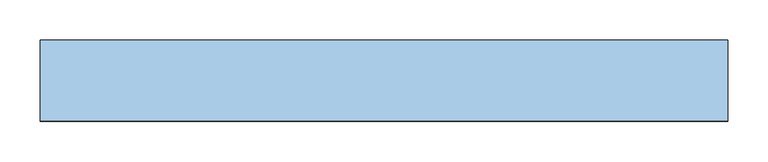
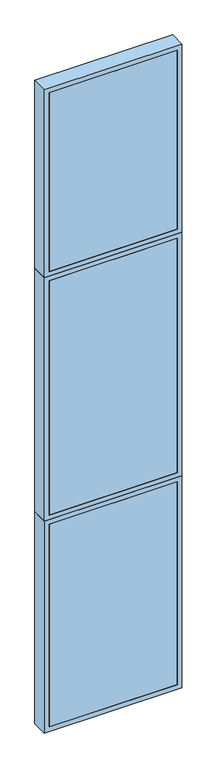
"""IFC4 building model written with IfcOpenShell, lengths in millimetres: window geometry, TRP_CP_ARC_FI_V1 : AL_P03_85_420."""

from ifc_helpers import new_model, si_unit, frame, origin, place, context, project, spatial, polyline, outline, extrude, source, transform, mapped, element, save


def window_8cf16216(model_context):
    return source(origin(), model_context, "Body", "SweptSolid", [
        extrude(outline(polyline([(395.0, -50.0), (-395.0, -50.0), (-395.0, -30.0), (395.0, -30.0), (395.0, -50.0)])), frame((0.0, 0.0, 30.0), z_axis=(0.0, 0.0, 1.0), x_axis=(1.0, 0.0, 0.0)), (0.0, 0.0, 1.0), 1323.0),
        extrude(outline(polyline([(1383.0, 425.0), (1383.0, -425.0), (0.0, -425.0), (0.0, 425.0), (1383.0, 425.0)]), holes=[polyline([(30.0, 395.0), (30.0, -395.0), (1353.0, -395.0), (1353.0, 395.0), (30.0, 395.0)])]), frame((0.0, -50.0, 0.0), z_axis=(0.0, 1.0, 0.0), x_axis=(0.0, 0.0, 1.0)), (0.0, 0.0, 1.0), 100.0),
        extrude(outline(polyline([(2973.0, 425.0), (2973.0, -425.0), (1383.0, -425.0), (1383.0, 425.0), (2973.0, 425.0)]), holes=[polyline([(1413.0, 395.0), (1413.0, -395.0), (2943.0, -395.0), (2943.0, 395.0), (1413.0, 395.0)])]), frame((0.0, -50.0, 0.0), z_axis=(0.0, 1.0, 0.0), x_axis=(0.0, 0.0, 1.0)), (0.0, 0.0, 1.0), 100.0),
        extrude(outline(polyline([(395.0, -50.0), (-395.0, -50.0), (-395.0, -30.0), (395.0, -30.0), (395.0, -50.0)])), frame((0.0, 0.0, 1413.0), z_axis=(0.0, 0.0, 1.0), x_axis=(1.0, 0.0, 0.0)), (0.0, 0.0, 1.0), 1530.0),
        extrude(outline(polyline([(4200.0, 425.0), (4200.0, -425.0), (2973.0, -425.0), (2973.0, 425.0), (4200.0, 425.0)]), holes=[polyline([(3003.0, 395.0), (3003.0, -395.0), (4170.0, -395.0), (4170.0, 395.0), (3003.0, 395.0)])]), frame((0.0, -50.0, 0.0), z_axis=(0.0, 1.0, 0.0), x_axis=(0.0, 0.0, 1.0)), (0.0, 0.0, 1.0), 100.0),
        extrude(outline(polyline([(395.0, -50.0), (-395.0, -50.0), (-395.0, -30.0), (395.0, -30.0), (395.0, -50.0)])), frame((0.0, 0.0, 3003.0), z_axis=(0.0, 0.0, 1.0), x_axis=(1.0, 0.0, 0.0)), (0.0, 0.0, 1.0), 1167.0),
    ])


if __name__ == "__main__":
    model = new_model("IFC4")
    model_context = context("Model", 3, world=origin())
    ifc_project = project(units=[si_unit("LENGTHUNIT", "METRE", prefix="MILLI")], contexts=[model_context])
    site = spatial("IfcSite", under=ifc_project)
    building = spatial("IfcBuilding", under=site)
    placement = place(None, origin())
    window_shape = window_8cf16216(model_context)
    element("IfcWindow", 1, ObjectType="TRP_CP_ARC_FI_V1 : AL_P03_85_420", at=placement, inside=building, context=model_context, shape_type="MappedRepresentation", body=[
        mapped(window_shape, transform((0.0, 0.0, 0.0), x_axis=(1.0, 0.0, 0.0), y_axis=(0.0, 1.0, 0.0), z_axis=(0.0, 0.0, 1.0))),
    ])
    save(model, "model.ifc")
